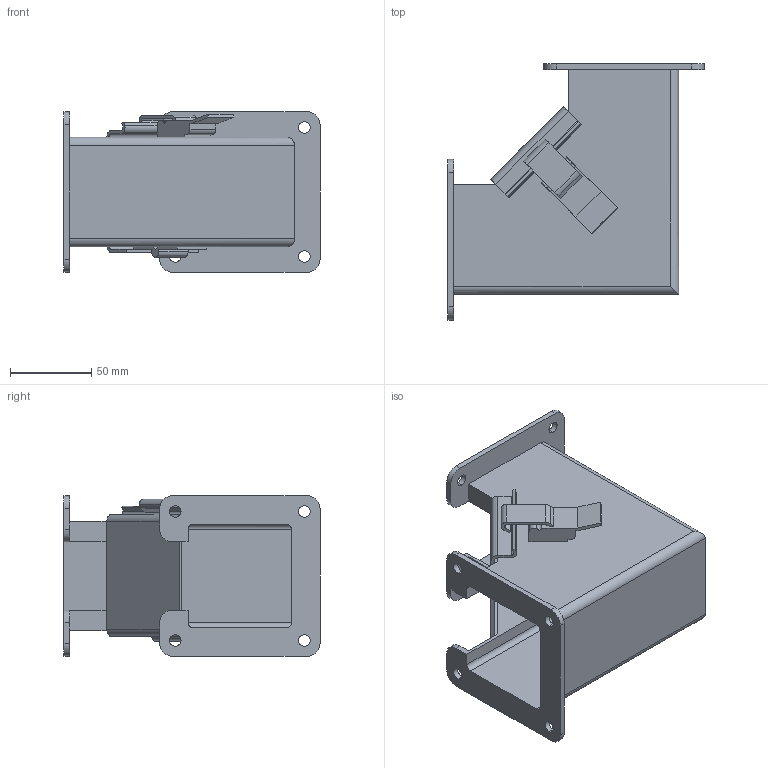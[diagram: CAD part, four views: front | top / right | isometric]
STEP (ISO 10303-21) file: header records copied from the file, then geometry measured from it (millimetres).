
FILE_DESCRIPTION (( 'STEP AP203' ), '1' );
FILE_NAME ('f22le9c.STEP', '2013-11-13T20:18:09', ( 'User' ), ( 'Pentair Inc' ), 'SwSTEP 2.0', 'SolidWorks 2010', '' );
FILE_SCHEMA (( 'CONFIG_CONTROL_DESIGN' ));
Length unit declared in the file: inch
Products named in the file (1): f22le9c
Bounding box: 157.23 x 157.23 x 98.55 mm (x, y, z)
Volume: 172587.1 mm3; surface area: 139119 mm2
Topology: 1 solids, 1 shells, 134 faces, 381 edges, 250 vertices
Faces by surface type: plane 76, cylinder 58
Entity records: 4468 total; most frequent: CARTESIAN_POINT 784, ORIENTED_EDGE 762, DIRECTION 749, EDGE_CURVE 381, VECTOR 271, LINE 271, VERTEX_POINT 250, AXIS2_PLACEMENT_3D 239
